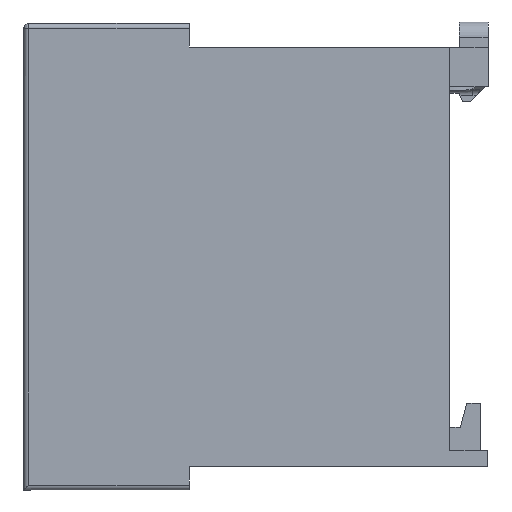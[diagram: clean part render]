
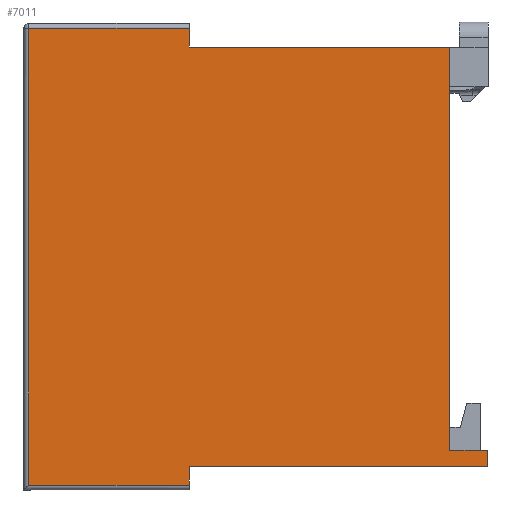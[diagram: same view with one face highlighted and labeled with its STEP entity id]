
A CAD part, left-side view. The second image highlights one B-rep face of the part: STEP entity #7011.
In plain terms, the highlighted planar face has unit normal (-1, 0, 0).
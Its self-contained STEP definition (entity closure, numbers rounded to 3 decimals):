
#72 = VECTOR ( 'NONE', #4500, 1000. ) ;
#132 = DIRECTION ( 'NONE',  ( 0., 0., -1. ) ) ;
#173 = ORIENTED_EDGE ( 'NONE', *, *, #7233, .F. ) ;
#175 = ORIENTED_EDGE ( 'NONE', *, *, #6669, .F. ) ;
#230 = EDGE_CURVE ( 'NONE', #6988, #5227, #2508, .T. ) ;
#364 = LINE ( 'NONE', #947, #5020 ) ;
#419 = EDGE_CURVE ( 'NONE', #6420, #3981, #6986, .T. ) ;
#503 = EDGE_CURVE ( 'NONE', #7634, #6988, #6387, .T. ) ;
#515 = LINE ( 'NONE', #2951, #5195 ) ;
#742 = ORIENTED_EDGE ( 'NONE', *, *, #419, .F. ) ;
#895 = DIRECTION ( 'NONE',  ( 0., 0., -1. ) ) ;
#947 = CARTESIAN_POINT ( 'NONE',  ( -22.5, 0., 16.84 ) ) ;
#962 = EDGE_CURVE ( 'NONE', #5227, #6420, #4440, .T. ) ;
#1033 = ORIENTED_EDGE ( 'NONE', *, *, #7413, .F. ) ;
#1052 = ORIENTED_EDGE ( 'NONE', *, *, #7578, .F. ) ;
#1082 = EDGE_CURVE ( 'NONE', #6911, #3504, #5100, .T. ) ;
#1272 = ORIENTED_EDGE ( 'NONE', *, *, #962, .F. ) ;
#1435 = CARTESIAN_POINT ( 'NONE',  ( -22.5, -3.932, -20.25 ) ) ;
#1557 = VERTEX_POINT ( 'NONE', #7649 ) ;
#1602 = ORIENTED_EDGE ( 'NONE', *, *, #503, .F. ) ;
#1607 = CARTESIAN_POINT ( 'NONE',  ( -22.5, 43.768, 23.6 ) ) ;
#1790 = CARTESIAN_POINT ( 'NONE',  ( -22.5, -3.932, -21.95 ) ) ;
#1959 = VERTEX_POINT ( 'NONE', #2403 ) ;
#2067 = EDGE_LOOP ( 'NONE', ( #742, #1272, #4394, #1602, #173, #175, #5034, #1052, #2784, #1033 ) ) ;
#2099 = CARTESIAN_POINT ( 'NONE',  ( -22.5, 27.068, 23.6 ) ) ;
#2265 = CARTESIAN_POINT ( 'NONE',  ( -22.5, -3.2, -20.25 ) ) ;
#2324 = CARTESIAN_POINT ( 'NONE',  ( -22.5, 27.068, 21.65 ) ) ;
#2358 = CARTESIAN_POINT ( 'NONE',  ( -22.5, 27.068, -21.95 ) ) ;
#2377 = VECTOR ( 'NONE', #6611, 1000. ) ;
#2403 = CARTESIAN_POINT ( 'NONE',  ( -22.5, 0., -20.25 ) ) ;
#2508 = LINE ( 'NONE', #2358, #2729 ) ;
#2651 = DIRECTION ( 'NONE',  ( 0., 1., 0. ) ) ;
#2729 = VECTOR ( 'NONE', #132, 1000. ) ;
#2784 = ORIENTED_EDGE ( 'NONE', *, *, #1082, .F. ) ;
#2834 = PLANE ( 'NONE',  #3432 ) ;
#2911 = DIRECTION ( 'NONE',  ( 0., 0., 1. ) ) ;
#2951 = CARTESIAN_POINT ( 'NONE',  ( -22.5, 27.068, 21.65 ) ) ;
#3106 = CARTESIAN_POINT ( 'NONE',  ( -22.5, 43.768, -0.434 ) ) ;
#3159 = LINE ( 'NONE', #6150, #6256 ) ;
#3432 = AXIS2_PLACEMENT_3D ( 'NONE', #7163, #3446, #7805 ) ;
#3446 = DIRECTION ( 'NONE',  ( 1., 0., 0. ) ) ;
#3504 = VERTEX_POINT ( 'NONE', #2324 ) ;
#3851 = LINE ( 'NONE', #3865, #72 ) ;
#3865 = CARTESIAN_POINT ( 'NONE',  ( -22.5, 17.609, 23.6 ) ) ;
#3981 = VERTEX_POINT ( 'NONE', #1607 ) ;
#4061 = LINE ( 'NONE', #2265, #2377 ) ;
#4088 = VECTOR ( 'NONE', #2911, 1000. ) ;
#4332 = CARTESIAN_POINT ( 'NONE',  ( -22.5, 27.068, -23.9 ) ) ;
#4394 = ORIENTED_EDGE ( 'NONE', *, *, #230, .F. ) ;
#4440 = LINE ( 'NONE', #5082, #5678 ) ;
#4500 = DIRECTION ( 'NONE',  ( 0., -1., 0. ) ) ;
#4567 = CARTESIAN_POINT ( 'NONE',  ( -22.5, 27.068, 24.1 ) ) ;
#4640 = FACE_OUTER_BOUND ( 'NONE', #2067, .T. ) ;
#4689 = CARTESIAN_POINT ( 'NONE',  ( -22.5, 27.068, -21.95 ) ) ;
#4839 = DIRECTION ( 'NONE',  ( 0., -1., 0. ) ) ;
#4918 = VECTOR ( 'NONE', #895, 1000. ) ;
#5020 = VECTOR ( 'NONE', #7095, 1000. ) ;
#5034 = ORIENTED_EDGE ( 'NONE', *, *, #6507, .F. ) ;
#5082 = CARTESIAN_POINT ( 'NONE',  ( -22.5, 17.609, -23.9 ) ) ;
#5100 = LINE ( 'NONE', #4567, #4918 ) ;
#5195 = VECTOR ( 'NONE', #4839, 1000. ) ;
#5227 = VERTEX_POINT ( 'NONE', #4332 ) ;
#5529 = DIRECTION ( 'NONE',  ( 0., 1., 0. ) ) ;
#5551 = CARTESIAN_POINT ( 'NONE',  ( -22.5, 0.668, -21.95 ) ) ;
#5678 = VECTOR ( 'NONE', #2651, 1000. ) ;
#5729 = CARTESIAN_POINT ( 'NONE',  ( -22.5, 43.768, -23.9 ) ) ;
#6150 = CARTESIAN_POINT ( 'NONE',  ( -22.5, -3.932, -0.434 ) ) ;
#6197 = VECTOR ( 'NONE', #5529, 1000. ) ;
#6256 = VECTOR ( 'NONE', #6774, 1000. ) ;
#6387 = LINE ( 'NONE', #5551, #6197 ) ;
#6420 = VERTEX_POINT ( 'NONE', #5729 ) ;
#6507 = EDGE_CURVE ( 'NONE', #1557, #1959, #364, .T. ) ;
#6611 = DIRECTION ( 'NONE',  ( 0., -1., 0. ) ) ;
#6669 = EDGE_CURVE ( 'NONE', #1959, #7868, #4061, .T. ) ;
#6774 = DIRECTION ( 'NONE',  ( 0., 0., -1. ) ) ;
#6911 = VERTEX_POINT ( 'NONE', #2099 ) ;
#6986 = LINE ( 'NONE', #3106, #4088 ) ;
#6988 = VERTEX_POINT ( 'NONE', #4689 ) ;
#7011 = ADVANCED_FACE ( 'NONE', ( #4640 ), #2834, .F. ) ;
#7095 = DIRECTION ( 'NONE',  ( 0., 0., -1. ) ) ;
#7163 = CARTESIAN_POINT ( 'NONE',  ( -22.5, 17.609, -0.434 ) ) ;
#7233 = EDGE_CURVE ( 'NONE', #7868, #7634, #3159, .T. ) ;
#7413 = EDGE_CURVE ( 'NONE', #3981, #6911, #3851, .T. ) ;
#7578 = EDGE_CURVE ( 'NONE', #3504, #1557, #515, .T. ) ;
#7634 = VERTEX_POINT ( 'NONE', #1790 ) ;
#7649 = CARTESIAN_POINT ( 'NONE',  ( -22.5, 0., 21.65 ) ) ;
#7805 = DIRECTION ( 'NONE',  ( 0., 0., -1. ) ) ;
#7868 = VERTEX_POINT ( 'NONE', #1435 ) ;
